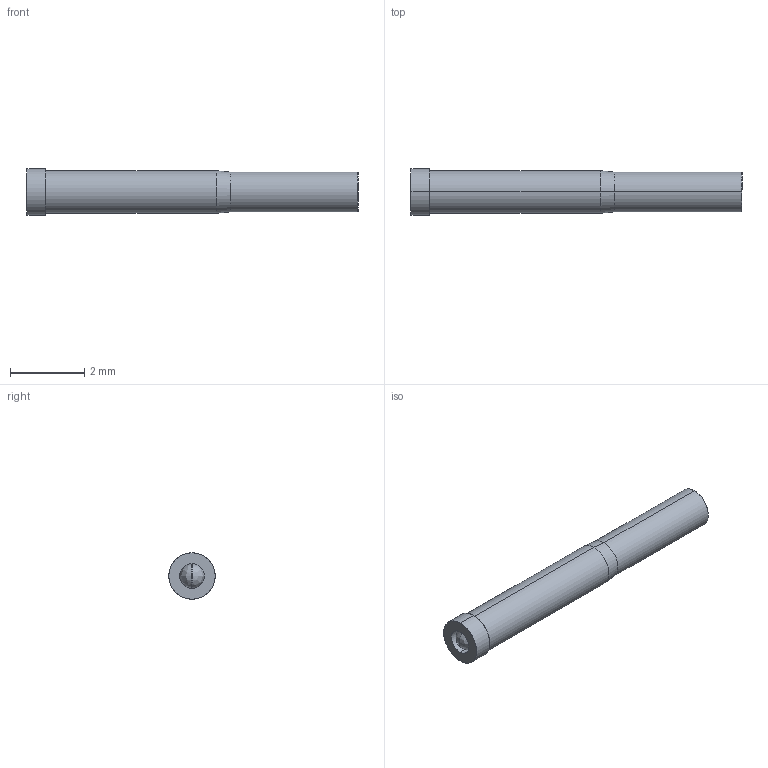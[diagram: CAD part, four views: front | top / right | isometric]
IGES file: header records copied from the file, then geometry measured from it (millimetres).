
Start section: SolidWorks IGES file using analytic representation for surfaces
Global section: file name: O:\PYLON\IGES FILES\C-S\C-S-R FULL.IGS; native system: SolidWorks 2015; preprocessor: SolidWorks 2015; author: kgolden; date: 171024.080929; units: inch
Bounding box: 8.92 x 1.24 x 1.24 mm (x, y, z)
Surface area: 38.8 mm2 (no closed solid volume)
Topology: 0 solids, 0 shells, 19 faces, 176 edges, 176 vertices
Faces by surface type: revolution 12, bspline 7
